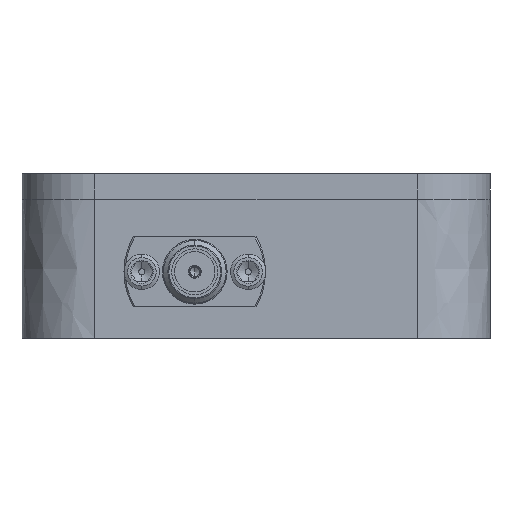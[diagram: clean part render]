
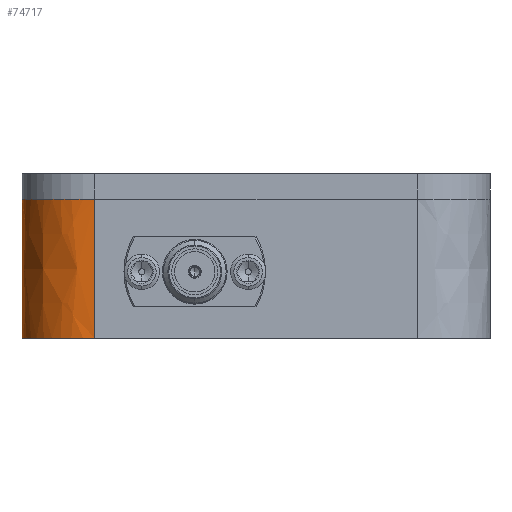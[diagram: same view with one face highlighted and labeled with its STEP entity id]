
A CAD part, left-side view. The second image highlights one B-rep face of the part: STEP entity #74717.
In plain terms, the highlighted face is a extrusion surface.
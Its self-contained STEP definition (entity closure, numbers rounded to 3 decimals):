
#74717 = ADVANCED_FACE('',(#74718),#74732,.T.);
#74718 = FACE_BOUND('',#74719,.T.);
#74719 = EDGE_LOOP('',(#74720,#74758,#74786,#74815));
#74720 = ORIENTED_EDGE('',*,*,#74721,.T.);
#74721 = EDGE_CURVE('',#74722,#74724,#74726,.T.);
#74722 = VERTEX_POINT('',#74723);
#74723 = CARTESIAN_POINT('',(-1.27,38.405,0.));
#74724 = VERTEX_POINT('',#74725);
#74725 = CARTESIAN_POINT('',(-1.27,38.405,13.97));
#74726 = SURFACE_CURVE('',#74727,(#74731,#74745),.PCURVE_S1.);
#74727 = LINE('',#74728,#74729);
#74728 = CARTESIAN_POINT('',(-1.27,38.405,0.));
#74729 = VECTOR('',#74730,1.);
#74730 = DIRECTION('',(0.,0.,1.));
#74731 = PCURVE('',#74732,#74739);
#74732 = SURFACE_OF_LINEAR_EXTRUSION('',#74733,#74737);
#74733 = ( BOUNDED_CURVE() B_SPLINE_CURVE(2,(#74734,#74735,#74736),
.UNSPECIFIED.,.F.,.F.) B_SPLINE_CURVE_WITH_KNOTS((3,3),(0.,1.),
.PIECEWISE_BEZIER_KNOTS.) CURVE() GEOMETRIC_REPRESENTATION_ITEM() 
RATIONAL_B_SPLINE_CURVE((1.,0.707,1.)) REPRESENTATION_ITEM('') 
  );
#74734 = CARTESIAN_POINT('',(-1.27,38.405,0.));
#74735 = CARTESIAN_POINT('',(-1.27,45.72,0.));
#74736 = CARTESIAN_POINT('',(6.045,45.72,0.));
#74737 = VECTOR('',#74738,1.);
#74738 = DIRECTION('',(-0.,-0.,-1.));
#74739 = DEFINITIONAL_REPRESENTATION('',(#74740),#74744);
#74740 = LINE('',#74741,#74742);
#74741 = CARTESIAN_POINT('',(0.,0.));
#74742 = VECTOR('',#74743,1.);
#74743 = DIRECTION('',(0.,-1.));
#74744 = ( GEOMETRIC_REPRESENTATION_CONTEXT(2) 
PARAMETRIC_REPRESENTATION_CONTEXT() REPRESENTATION_CONTEXT('2D SPACE',''
  ) );
#74745 = PCURVE('',#74746,#74752);
#74746 = SURFACE_OF_LINEAR_EXTRUSION('',#74747,#74750);
#74747 = B_SPLINE_CURVE_WITH_KNOTS('',1,(#74748,#74749),.UNSPECIFIED.,
  .F.,.F.,(2,2),(0.,1.),.PIECEWISE_BEZIER_KNOTS.);
#74748 = CARTESIAN_POINT('',(-1.27,6.045,0.));
#74749 = CARTESIAN_POINT('',(-1.27,38.405,0.));
#74750 = VECTOR('',#74751,1.);
#74751 = DIRECTION('',(-0.,-0.,-1.));
#74752 = DEFINITIONAL_REPRESENTATION('',(#74753),#74757);
#74753 = LINE('',#74754,#74755);
#74754 = CARTESIAN_POINT('',(1.,0.));
#74755 = VECTOR('',#74756,1.);
#74756 = DIRECTION('',(0.,-1.));
#74757 = ( GEOMETRIC_REPRESENTATION_CONTEXT(2) 
PARAMETRIC_REPRESENTATION_CONTEXT() REPRESENTATION_CONTEXT('2D SPACE',''
  ) );
#74758 = ORIENTED_EDGE('',*,*,#74759,.T.);
#74759 = EDGE_CURVE('',#74724,#74760,#74762,.T.);
#74760 = VERTEX_POINT('',#74761);
#74761 = CARTESIAN_POINT('',(6.045,45.72,13.97));
#74762 = SURFACE_CURVE('',#74763,(#74767,#74774),.PCURVE_S1.);
#74763 = ( BOUNDED_CURVE() B_SPLINE_CURVE(2,(#74764,#74765,#74766),
.UNSPECIFIED.,.F.,.F.) B_SPLINE_CURVE_WITH_KNOTS((3,3),(0.,1.),
.PIECEWISE_BEZIER_KNOTS.) CURVE() GEOMETRIC_REPRESENTATION_ITEM() 
RATIONAL_B_SPLINE_CURVE((1.,0.707,1.)) REPRESENTATION_ITEM('') 
  );
#74764 = CARTESIAN_POINT('',(-1.27,38.405,13.97));
#74765 = CARTESIAN_POINT('',(-1.27,45.72,13.97));
#74766 = CARTESIAN_POINT('',(6.045,45.72,13.97));
#74767 = PCURVE('',#74732,#74768);
#74768 = DEFINITIONAL_REPRESENTATION('',(#74769),#74773);
#74769 = LINE('',#74770,#74771);
#74770 = CARTESIAN_POINT('',(0.,-13.97));
#74771 = VECTOR('',#74772,1.);
#74772 = DIRECTION('',(1.,0.));
#74773 = ( GEOMETRIC_REPRESENTATION_CONTEXT(2) 
PARAMETRIC_REPRESENTATION_CONTEXT() REPRESENTATION_CONTEXT('2D SPACE',''
  ) );
#74774 = PCURVE('',#74775,#74780);
#74775 = PLANE('',#74776);
#74776 = AXIS2_PLACEMENT_3D('',#74777,#74778,#74779);
#74777 = CARTESIAN_POINT('',(22.225,22.225,13.97));
#74778 = DIRECTION('',(-0.,-0.,-1.));
#74779 = DIRECTION('',(-1.,0.,0.));
#74780 = DEFINITIONAL_REPRESENTATION('',(#74781),#74785);
#74781 = ( BOUNDED_CURVE() B_SPLINE_CURVE(2,(#74782,#74783,#74784),
.UNSPECIFIED.,.F.,.F.) B_SPLINE_CURVE_WITH_KNOTS((3,3),(0.,1.),
.PIECEWISE_BEZIER_KNOTS.) CURVE() GEOMETRIC_REPRESENTATION_ITEM() 
RATIONAL_B_SPLINE_CURVE((1.,0.707,1.)) REPRESENTATION_ITEM('') 
  );
#74782 = CARTESIAN_POINT('',(23.495,16.18));
#74783 = CARTESIAN_POINT('',(23.495,23.495));
#74784 = CARTESIAN_POINT('',(16.18,23.495));
#74785 = ( GEOMETRIC_REPRESENTATION_CONTEXT(2) 
PARAMETRIC_REPRESENTATION_CONTEXT() REPRESENTATION_CONTEXT('2D SPACE',''
  ) );
#74786 = ORIENTED_EDGE('',*,*,#74787,.F.);
#74787 = EDGE_CURVE('',#74788,#74760,#74790,.T.);
#74788 = VERTEX_POINT('',#74789);
#74789 = CARTESIAN_POINT('',(6.045,45.72,0.));
#74790 = SURFACE_CURVE('',#74791,(#74795,#74802),.PCURVE_S1.);
#74791 = LINE('',#74792,#74793);
#74792 = CARTESIAN_POINT('',(6.045,45.72,0.));
#74793 = VECTOR('',#74794,1.);
#74794 = DIRECTION('',(0.,0.,1.));
#74795 = PCURVE('',#74732,#74796);
#74796 = DEFINITIONAL_REPRESENTATION('',(#74797),#74801);
#74797 = LINE('',#74798,#74799);
#74798 = CARTESIAN_POINT('',(1.,0.));
#74799 = VECTOR('',#74800,1.);
#74800 = DIRECTION('',(0.,-1.));
#74801 = ( GEOMETRIC_REPRESENTATION_CONTEXT(2) 
PARAMETRIC_REPRESENTATION_CONTEXT() REPRESENTATION_CONTEXT('2D SPACE',''
  ) );
#74802 = PCURVE('',#74803,#74809);
#74803 = SURFACE_OF_LINEAR_EXTRUSION('',#74804,#74807);
#74804 = B_SPLINE_CURVE_WITH_KNOTS('',1,(#74805,#74806),.UNSPECIFIED.,
  .F.,.F.,(2,2),(0.,1.),.PIECEWISE_BEZIER_KNOTS.);
#74805 = CARTESIAN_POINT('',(6.045,45.72,0.));
#74806 = CARTESIAN_POINT('',(38.405,45.72,0.));
#74807 = VECTOR('',#74808,1.);
#74808 = DIRECTION('',(-0.,-0.,-1.));
#74809 = DEFINITIONAL_REPRESENTATION('',(#74810),#74814);
#74810 = LINE('',#74811,#74812);
#74811 = CARTESIAN_POINT('',(0.,0.));
#74812 = VECTOR('',#74813,1.);
#74813 = DIRECTION('',(0.,-1.));
#74814 = ( GEOMETRIC_REPRESENTATION_CONTEXT(2) 
PARAMETRIC_REPRESENTATION_CONTEXT() REPRESENTATION_CONTEXT('2D SPACE',''
  ) );
#74815 = ORIENTED_EDGE('',*,*,#74816,.F.);
#74816 = EDGE_CURVE('',#74722,#74788,#74817,.T.);
#74817 = SURFACE_CURVE('',#74818,(#74822,#74829),.PCURVE_S1.);
#74818 = ( BOUNDED_CURVE() B_SPLINE_CURVE(2,(#74819,#74820,#74821),
.UNSPECIFIED.,.F.,.F.) B_SPLINE_CURVE_WITH_KNOTS((3,3),(0.,1.),
.PIECEWISE_BEZIER_KNOTS.) CURVE() GEOMETRIC_REPRESENTATION_ITEM() 
RATIONAL_B_SPLINE_CURVE((1.,0.707,1.)) REPRESENTATION_ITEM('') 
  );
#74819 = CARTESIAN_POINT('',(-1.27,38.405,0.));
#74820 = CARTESIAN_POINT('',(-1.27,45.72,0.));
#74821 = CARTESIAN_POINT('',(6.045,45.72,0.));
#74822 = PCURVE('',#74732,#74823);
#74823 = DEFINITIONAL_REPRESENTATION('',(#74824),#74828);
#74824 = LINE('',#74825,#74826);
#74825 = CARTESIAN_POINT('',(0.,0.));
#74826 = VECTOR('',#74827,1.);
#74827 = DIRECTION('',(1.,0.));
#74828 = ( GEOMETRIC_REPRESENTATION_CONTEXT(2) 
PARAMETRIC_REPRESENTATION_CONTEXT() REPRESENTATION_CONTEXT('2D SPACE',''
  ) );
#74829 = PCURVE('',#74830,#74835);
#74830 = PLANE('',#74831);
#74831 = AXIS2_PLACEMENT_3D('',#74832,#74833,#74834);
#74832 = CARTESIAN_POINT('',(22.225,22.225,0.));
#74833 = DIRECTION('',(-0.,-0.,-1.));
#74834 = DIRECTION('',(-1.,0.,0.));
#74835 = DEFINITIONAL_REPRESENTATION('',(#74836),#74840);
#74836 = ( BOUNDED_CURVE() B_SPLINE_CURVE(2,(#74837,#74838,#74839),
.UNSPECIFIED.,.F.,.F.) B_SPLINE_CURVE_WITH_KNOTS((3,3),(0.,1.),
.PIECEWISE_BEZIER_KNOTS.) CURVE() GEOMETRIC_REPRESENTATION_ITEM() 
RATIONAL_B_SPLINE_CURVE((1.,0.707,1.)) REPRESENTATION_ITEM('') 
  );
#74837 = CARTESIAN_POINT('',(23.495,16.18));
#74838 = CARTESIAN_POINT('',(23.495,23.495));
#74839 = CARTESIAN_POINT('',(16.18,23.495));
#74840 = ( GEOMETRIC_REPRESENTATION_CONTEXT(2) 
PARAMETRIC_REPRESENTATION_CONTEXT() REPRESENTATION_CONTEXT('2D SPACE',''
  ) );
